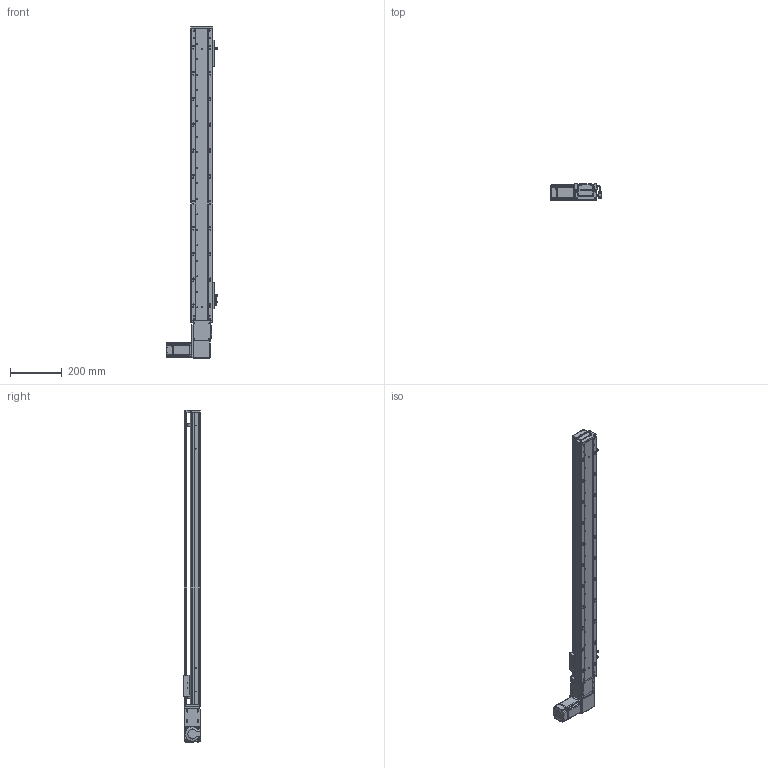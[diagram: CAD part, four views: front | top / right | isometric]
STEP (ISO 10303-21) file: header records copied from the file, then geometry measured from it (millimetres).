
FILE_DESCRIPTION (( 'STEP AP203' ), '1' );
FILE_NAME ('RY80-T-300-LK.SLDASM_950.step', '2021-03-01T01:58:52', ( '盈信电脑' ), ( '东莞市道滘镇水果街19号' ), 'SwSTEP 2.0', 'SolidWorks 2012', '' );
FILE_SCHEMA (( 'CONFIG_CONTROL_DESIGN' ));
Length unit declared in the file: millimetre
Products named in the file (19): RY80-T-翋肮祭謫釱; RY80俋离覜茼え; 672嫖萇羲壽假蚾釱; 覜茼ん672; RY80-T綴裔啣; RY80-T肮祭謫臏賑輸; RY80-T-300-LK倰第奻裔啣_950; RY80-T-300-LK倰第菁釱_950; RY80-T-300-LK.SLDASM_950; 侂狟200W萇儂; RY80-T萇儂假蚾啣; RY80-T肮祭謫俋欶; RY80-T-M4蹟翐; 1; 滅袉蝶18-10; RY80-T翋肮祭謫裔啣; RY80-T粣創揤踡輸; RY80-T肮祭湍揤輸1; RY80-T肮祭湍揤輸2
Assembly tree (24 placements, depth 3):
  RY80-T-300-LK.SLDASM_950
    RY80-T-300-LK倰第菁釱_950
    RY80-T肮祭謫臏賑輸
    RY80-T-300-LK倰第奻裔啣_950
    RY80-T綴裔啣
    672嫖萇羲壽假蚾釱  x2
    覜茼ん672  x3
    RY80俋离覜茼え
    RY80-T-翋肮祭謫釱
    RY80-T肮祭湍揤輸1
    RY80-T肮祭湍揤輸2
    RY80-T粣創揤踡輸
    RY80-T翋肮祭謫裔啣  x2
    滅袉蝶18-10  x2
    侂狟200W萇儂
      1
    RY80-T肮祭謫俋欶
    RY80-T萇儂假蚾啣
    RY80-T-M4蹟翐  x2
Bounding box: 198.7 x 65 x 1285 mm (x, y, z)
Volume: 2108438.9 mm3; surface area: 881621.8 mm2
Topology: 23 solids, 23 shells, 2602 faces, 7224 edges, 4695 vertices
Faces by surface type: plane 1349, cylinder 1044, cone 153, bspline 56
Entity records: 83569 total; most frequent: CARTESIAN_POINT 21397, ORIENTED_EDGE 12892, DIRECTION 11912, EDGE_CURVE 6446, VERTEX_POINT 4236, AXIS2_PLACEMENT_3D 4043, VECTOR 3826, LINE 3826
